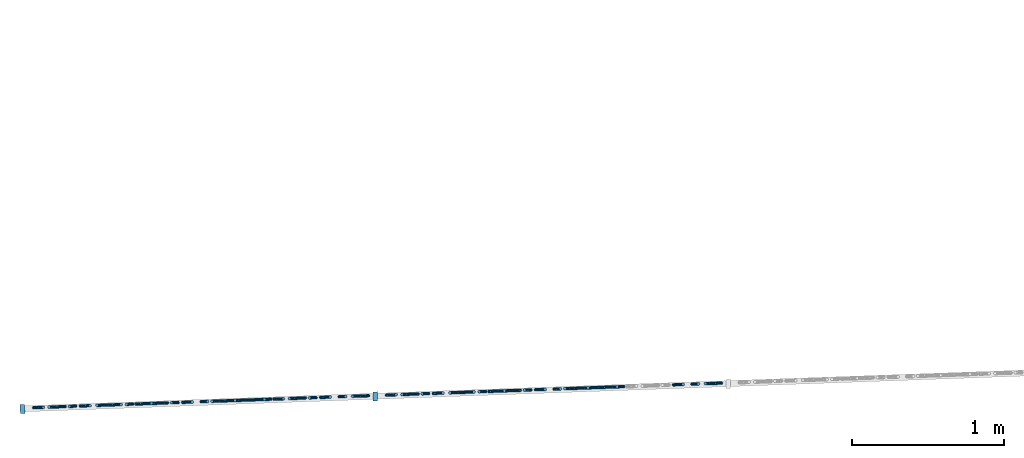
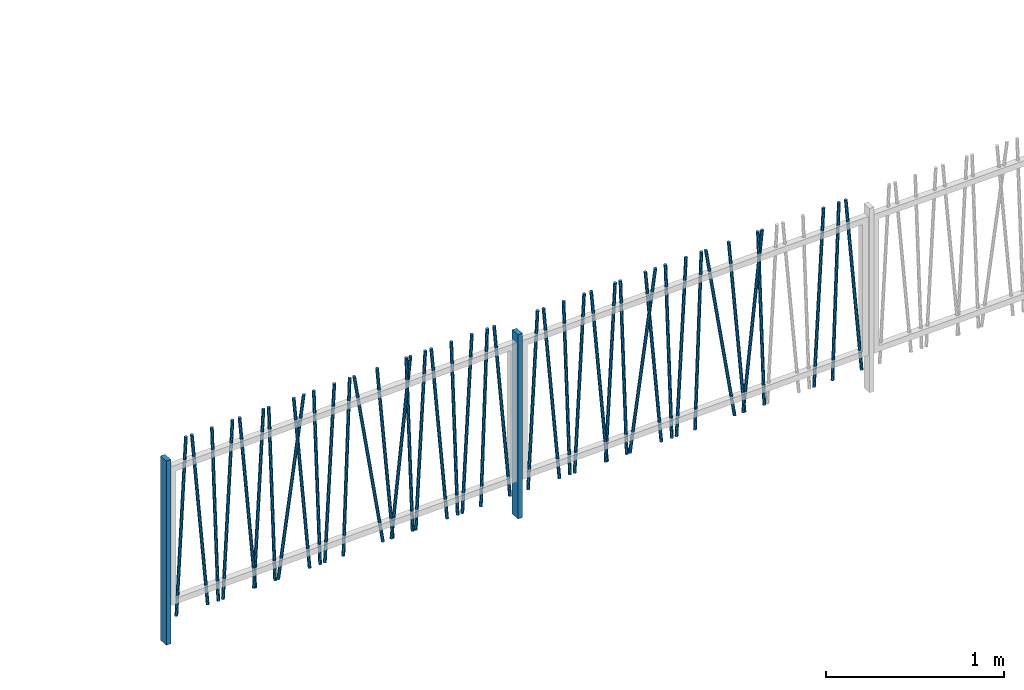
# One storey, part 1 of 171: 43 columns.
"""IFC2X3 building model written with IfcOpenShell, lengths in millimetres."""

from ifc_helpers import new_model, entity, si_unit, converted_unit, derived_unit, money_unit, direction, frame, origin_with_axes, origin_2d_with_axis, place, context, subcontext, project, spatial, rectangle, circle, extrude, clip, halfspace, material, type_object, element, save


model = new_model("IFC2X3")

# Units and contexts
model_context = context("Model", 3, precision=0.01, world=origin_with_axes(), true_north=direction((0.0, 1.0)))
body_context = subcontext(model_context, "Body", "Model", "MODEL_VIEW")
ifc_project = project(units=[si_unit("LENGTHUNIT", "METRE", prefix="MILLI"), si_unit("AREAUNIT", "SQUARE_METRE"), si_unit("VOLUMEUNIT", "CUBIC_METRE"), converted_unit("PLANEANGLEUNIT", "DEGREE", entity("IfcPlaneAngleMeasure", 0.0174532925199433), si_unit("PLANEANGLEUNIT", "RADIAN"), dimensions=[0, 0, 0, 0, 0, 0, 0]), money_unit("USD"), converted_unit("TIMEUNIT", "Year", entity("IfcTimeMeasure", 31557600.0), si_unit("TIMEUNIT", "SECOND"), dimensions=[0, 0, 1, 0, 0, 0, 0]), si_unit("MASSUNIT", "GRAM", prefix="KILO"), si_unit("THERMODYNAMICTEMPERATUREUNIT", "DEGREE_CELSIUS"), si_unit("LUMINOUSINTENSITYUNIT", "LUMEN"), si_unit("ENERGYUNIT", "JOULE", prefix="MEGA"), derived_unit("THERMALCONDUCTANCEUNIT", [(si_unit("POWERUNIT", "WATT"), 1), (si_unit("LENGTHUNIT", "METRE"), -1), (si_unit("THERMODYNAMICTEMPERATUREUNIT", "KELVIN"), -1)]), derived_unit("SPECIFICHEATCAPACITYUNIT", [(si_unit("ENERGYUNIT", "JOULE"), 1), (si_unit("MASSUNIT", "GRAM", prefix="KILO"), -1), (si_unit("THERMODYNAMICTEMPERATUREUNIT", "KELVIN"), -1)]), derived_unit("MASSDENSITYUNIT", [(si_unit("MASSUNIT", "GRAM", prefix="KILO"), 1), (si_unit("VOLUMEUNIT", "CUBIC_METRE"), -1)])], contexts=[model_context])

# Site, building, storey
site_placement = place(None, origin_with_axes())
site = spatial("IfcSite", under=ifc_project, at=site_placement, Name="Site", CompositionType="ELEMENT")
building_placement = place(site_placement, origin_with_axes())
building = spatial("IfcBuilding", under=site, at=building_placement, Name="Bâtiment", CompositionType="ELEMENT")
storey_placement = place(building_placement, frame((0.0, 0.0, 3000.0), z_axis=(0.0, 0.0, 1.0), x_axis=(1.0, 0.0, 0.0)))
storey = spatial("IfcBuildingStorey", under=building, at=storey_placement, Name="rdc", CompositionType="ELEMENT", Elevation=3000.0)

# Columns
ifc_material = material(Name="Empty Fill 2959611567")
column_type_1 = type_object("IfcColumnType", Name="Empty Fill 2959611567 D20", PredefinedType="NOTDEFINED")
column_1_placement = place(storey_placement, frame((2214908.91730495, -668222.0165214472, -1950.0), z_axis=(0.0, 0.0, 1.0), x_axis=(-0.03567989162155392, 0.9993632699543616, 0.0)))
element("IfcColumn", 1, at=column_1_placement, inside=storey, type_object=column_type_1, material=ifc_material, Name="Pilier-019", context=body_context, shape_type="Clipping", body=[
    clip(clip(extrude(circle(Radius=10.0, at=origin_2d_with_axis()), frame((0.0, -0.02437434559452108, -0.6979899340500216), z_axis=(0.0, 0.03489949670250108, 0.9993908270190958), x_axis=(1.0, 0.0, 0.0)), (0.0, 0.0, 1.0), 1202.128283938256), halfspace(frame((0.0, 0.0, 0.0), z_axis=(0.0, 0.0, 1.0), x_axis=(0.0, -1.0, 0.0)), True)), halfspace(frame((0.0, 0.0, 1200.0), z_axis=(0.0, 0.0, -1.0), x_axis=(0.0, 1.0, 0.0)), True)),
])
column_2_placement = place(storey_placement, frame((2215062.445609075, -668216.5351580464, -1950.0), z_axis=(0.0, 0.0, 1.0), x_axis=(0.03567989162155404, -0.9993632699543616, 0.0)))
element("IfcColumn", 2, at=column_2_placement, inside=storey, type_object=column_type_1, material=ifc_material, Name="Pilier-019", context=body_context, shape_type="Clipping", body=[
    clip(clip(extrude(circle(Radius=10.0, at=origin_2d_with_axis()), frame((0.0, -0.02437434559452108, -0.6979899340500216), z_axis=(0.0, -0.03489949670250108, -0.9993908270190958), x_axis=(-1.0, 0.0, 0.0)), (0.0, 0.0, -1.0), 1202.128283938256), halfspace(frame((0.0, 0.0, 0.0), z_axis=(0.0, 0.0, 1.0), x_axis=(0.0, -1.0, 0.0)), True)), halfspace(frame((0.0, 0.0, 1200.0), z_axis=(0.0, 0.0, -1.0), x_axis=(0.0, 1.0, 0.0)), True)),
])
column_3_placement = place(storey_placement, frame((2214940.190533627, -668220.8999851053, -1950.0), z_axis=(0.0, 0.0, 1.0), x_axis=(0.03567989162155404, -0.9993632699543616, 0.0)))
element("IfcColumn", 3, at=column_3_placement, inside=storey, type_object=column_type_1, material=ifc_material, Name="Pilier-019", context=body_context, shape_type="Clipping", body=[
    clip(clip(extrude(circle(Radius=10.0, at=origin_2d_with_axis()), frame((0.0, -0.05485622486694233, -1.046719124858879), z_axis=(0.0, -0.05233595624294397, -0.9986295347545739), x_axis=(-1.0, 0.0, 0.0)), (0.0, 0.0, -1.0), 1203.743126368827), halfspace(frame((0.0, 0.0, 0.0), z_axis=(0.0, 0.0, 1.0), x_axis=(0.0, -1.0, 0.0)), True)), halfspace(frame((0.0, 0.0, 1200.0), z_axis=(0.0, 0.0, -1.0), x_axis=(0.0, 1.0, 0.0)), True)),
])
column_4_placement = place(storey_placement, frame((2214611.367755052, -668232.6398213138, -1950.0), z_axis=(0.0, 0.0, 1.0), x_axis=(-0.03567989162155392, 0.9993632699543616, 0.0)))
element("IfcColumn", 4, at=column_4_placement, inside=storey, type_object=column_type_1, material=ifc_material, Name="Pilier-019", context=body_context, shape_type="Clipping", body=[
    clip(clip(extrude(circle(Radius=10.0, at=origin_2d_with_axis()), frame((0.0, -0.02437434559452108, -0.6979899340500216), z_axis=(0.0, 0.03489949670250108, 0.9993908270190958), x_axis=(1.0, 0.0, 0.0)), (0.0, 0.0, 1.0), 1202.128283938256), halfspace(frame((0.0, 0.0, 0.0), z_axis=(0.0, 0.0, 1.0), x_axis=(0.0, -1.0, 0.0)), True)), halfspace(frame((0.0, 0.0, 1200.0), z_axis=(0.0, 0.0, -1.0), x_axis=(0.0, 1.0, 0.0)), True)),
])
column_5_placement = place(storey_placement, frame((2215323.617414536, -668207.2106391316, -1950.0), z_axis=(0.0, 0.0, 1.0), x_axis=(-0.03567989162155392, 0.9993632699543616, 0.0)))
element("IfcColumn", 5, at=column_5_placement, inside=storey, type_object=column_type_1, material=ifc_material, Name="Pilier-019", context=body_context, shape_type="Clipping", body=[
    clip(clip(extrude(circle(Radius=10.0, at=origin_2d_with_axis()), frame((0.0, -0.4955357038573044, -3.128689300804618), z_axis=(0.0, 0.1564344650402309, 0.9876883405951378), x_axis=(1.0, 0.0, 0.0)), (0.0, 0.0, 1.0), 1221.293528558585), halfspace(frame((0.0, 0.0, 0.0), z_axis=(0.0, 0.0, 1.0), x_axis=(0.0, -1.0, 0.0)), True)), halfspace(frame((0.0, 0.0, 1200.0), z_axis=(0.0, 0.0, -1.0), x_axis=(0.0, 1.0, 0.0)), True)),
])
for number, where, z_axis, x_axis, name in (
    (6, (2215389.823736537, -668204.8468996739, -1950.0), (0.0, 0.0, 1.0), (-0.03567989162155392, 0.9993632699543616, 0.0), "Pilier-019"),
    (7, (2216163.201120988, -668177.2352972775, -1950.0), (0.0, 0.0, 1.0), (-0.03567989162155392, 0.9993632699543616, 0.0), "Pilier-019"),
):
    element("IfcColumn", number, at=place(storey_placement, frame(where, z_axis=z_axis, x_axis=x_axis)), inside=storey, type_object=column_type_1, material=ifc_material, Name=name, context=body_context, shape_type="Clipping", body=[
        clip(clip(extrude(circle(Radius=10.0, at=origin_2d_with_axis()), frame((0.0, -0.152502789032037, -1.743114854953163), z_axis=(0.0, 0.08715574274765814, 0.9961946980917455), x_axis=(1.0, 0.0, 0.0)), (0.0, 0.0, 1.0), 1208.083351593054), halfspace(frame((0.0, 0.0, 0.0), z_axis=(0.0, 0.0, 1.0), x_axis=(0.0, -1.0, 0.0)), True)), halfspace(frame((0.0, 0.0, 1200.0), z_axis=(0.0, 0.0, -1.0), x_axis=(0.0, 1.0, 0.0)), True)),
    ])
column_6_placement = place(storey_placement, frame((2214267.183536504, -668244.9281012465, -1950.0), z_axis=(0.0, 0.0, 1.0), x_axis=(0.03567989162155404, -0.9993632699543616, 0.0)))
element("IfcColumn", 8, at=column_6_placement, inside=storey, type_object=column_type_1, material=ifc_material, Name="Pilier-019", context=body_context, shape_type="Clipping", body=[
    clip(clip(extrude(circle(Radius=10.0, at=origin_2d_with_axis()), frame((0.0, -0.05485622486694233, -1.046719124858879), z_axis=(0.0, -0.05233595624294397, -0.9986295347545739), x_axis=(-1.0, 0.0, 0.0)), (0.0, 0.0, -1.0), 1203.743126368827), halfspace(frame((0.0, 0.0, 0.0), z_axis=(0.0, 0.0, 1.0), x_axis=(0.0, -1.0, 0.0)), True)), halfspace(frame((0.0, 0.0, 1200.0), z_axis=(0.0, 0.0, -1.0), x_axis=(0.0, 1.0, 0.0)), True)),
])
column_7_placement = place(storey_placement, frame((2214481.537509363, -668237.2751018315, -1950.0), z_axis=(0.0, 0.0, 1.0), x_axis=(-0.03567989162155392, 0.9993632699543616, 0.0)))
element("IfcColumn", 9, at=column_7_placement, inside=storey, type_object=column_type_1, material=ifc_material, Name="Pilier-019", context=body_context, shape_type="Clipping", body=[
    clip(clip(extrude(circle(Radius=10.0, at=origin_2d_with_axis()), frame((0.0, -0.152502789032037, -1.743114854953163), z_axis=(0.0, 0.08715574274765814, 0.9961946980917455), x_axis=(1.0, 0.0, 0.0)), (0.0, 0.0, 1.0), 1208.083351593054), halfspace(frame((0.0, 0.0, 0.0), z_axis=(0.0, 0.0, 1.0), x_axis=(0.0, -1.0, 0.0)), True)), halfspace(frame((0.0, 0.0, 1200.0), z_axis=(0.0, 0.0, -1.0), x_axis=(0.0, 1.0, 0.0)), True)),
])
column_8_placement = place(storey_placement, frame((2214235.910307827, -668246.0446375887, -1950.0), z_axis=(0.0, 0.0, 1.0), x_axis=(-0.03567989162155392, 0.9993632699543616, 0.0)))
element("IfcColumn", 10, at=column_8_placement, inside=storey, type_object=column_type_1, material=ifc_material, Name="Pilier-019", context=body_context, shape_type="Clipping", body=[
    clip(clip(extrude(circle(Radius=10.0, at=origin_2d_with_axis()), frame((0.0, -0.02437434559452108, -0.6979899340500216), z_axis=(0.0, 0.03489949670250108, 0.9993908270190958), x_axis=(1.0, 0.0, 0.0)), (0.0, 0.0, 1.0), 1202.128283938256), halfspace(frame((0.0, 0.0, 0.0), z_axis=(0.0, 0.0, 1.0), x_axis=(0.0, -1.0, 0.0)), True)), halfspace(frame((0.0, 0.0, 1200.0), z_axis=(0.0, 0.0, -1.0), x_axis=(0.0, 1.0, 0.0)), True)),
])
column_9_placement = place(storey_placement, frame((2214839.497187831, -668224.4950018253, -1950.0), z_axis=(0.0, 0.0, 1.0), x_axis=(-0.03567989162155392, 0.9993632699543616, 0.0)))
element("IfcColumn", 11, at=column_9_placement, inside=storey, type_object=column_type_1, material=ifc_material, Name="Pilier-019", context=body_context, shape_type="Clipping", body=[
    clip(clip(extrude(circle(Radius=10.0, at=origin_2d_with_axis()), frame((0.0, -0.152502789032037, -1.743114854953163), z_axis=(0.0, 0.08715574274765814, 0.9961946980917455), x_axis=(1.0, 0.0, 0.0)), (0.0, 0.0, 1.0), 1208.083351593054), halfspace(frame((0.0, 0.0, 0.0), z_axis=(0.0, 0.0, 1.0), x_axis=(0.0, -1.0, 0.0)), True)), halfspace(frame((0.0, 0.0, 1200.0), z_axis=(0.0, 0.0, -1.0), x_axis=(0.0, 1.0, 0.0)), True)),
])
column_10_placement = place(storey_placement, frame((2214632.488675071, -668231.8857490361, -1950.0), z_axis=(0.0, 0.0, 1.0), x_axis=(0.03567989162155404, -0.9993632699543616, 0.0)))
element("IfcColumn", 12, at=column_10_placement, inside=storey, type_object=column_type_1, material=ifc_material, Name="Pilier-019", context=body_context, shape_type="Clipping", body=[
    clip(clip(extrude(circle(Radius=10.0, at=origin_2d_with_axis()), frame((0.0, -0.3911900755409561, -2.78346201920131), z_axis=(0.0, -0.1391731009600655, -0.9902680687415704), x_axis=(-1.0, 0.0, 0.0)), (0.0, 0.0, -1.0), 1217.414720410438), halfspace(frame((0.0, 0.0, 0.0), z_axis=(0.0, 0.0, 1.0), x_axis=(0.0, -1.0, 0.0)), True)), halfspace(frame((0.0, 0.0, 1200.0), z_axis=(0.0, 0.0, -1.0), x_axis=(0.0, 1.0, 0.0)), True)),
])
column_11_placement = place(storey_placement, frame((2215848.476760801, -668188.4717829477, -1950.0), z_axis=(0.0, 0.0, 1.0), x_axis=(0.03567989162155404, -0.9993632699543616, 0.0)))
element("IfcColumn", 13, at=column_11_placement, inside=storey, type_object=column_type_1, material=ifc_material, Name="Pilier-019", context=body_context, shape_type="Clipping", body=[
    clip(clip(extrude(circle(Radius=10.0, at=origin_2d_with_axis()), frame((0.0, -0.05485622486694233, -1.046719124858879), z_axis=(0.0, -0.05233595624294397, -0.9986295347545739), x_axis=(-1.0, 0.0, 0.0)), (0.0, 0.0, -1.0), 1203.743126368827), halfspace(frame((0.0, 0.0, 0.0), z_axis=(0.0, 0.0, 1.0), x_axis=(0.0, -1.0, 0.0)), True)), halfspace(frame((0.0, 0.0, 1200.0), z_axis=(0.0, 0.0, -1.0), x_axis=(0.0, 1.0, 0.0)), True)),
])
column_12_placement = place(storey_placement, frame((2215379.925402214, -668205.2002961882, -1950.0), z_axis=(0.0, 0.0, 1.0), x_axis=(0.03567989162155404, -0.9993632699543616, 0.0)))
element("IfcColumn", 14, at=column_12_placement, inside=storey, type_object=column_type_1, material=ifc_material, Name="Pilier-019", context=body_context, shape_type="Clipping", body=[
    clip(clip(extrude(circle(Radius=10.0, at=origin_2d_with_axis()), frame((0.0, -0.2197276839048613, -2.090569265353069), z_axis=(0.0, -0.1045284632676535, -0.9945218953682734), x_axis=(-1.0, 0.0, 0.0)), (0.0, 0.0, -1.0), 1210.814104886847), halfspace(frame((0.0, 0.0, 0.0), z_axis=(0.0, 0.0, 1.0), x_axis=(0.0, -1.0, 0.0)), True)), halfspace(frame((0.0, 0.0, 1200.0), z_axis=(0.0, 0.0, -1.0), x_axis=(0.0, 1.0, 0.0)), True)),
])
column_13_placement = place(storey_placement, frame((2215970.731836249, -668184.1069558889, -1950.0), z_axis=(0.0, 0.0, 1.0), x_axis=(0.03567989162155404, -0.9993632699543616, 0.0)))
element("IfcColumn", 15, at=column_13_placement, inside=storey, type_object=column_type_1, material=ifc_material, Name="Pilier-019", context=body_context, shape_type="Clipping", body=[
    clip(clip(extrude(circle(Radius=10.0, at=origin_2d_with_axis()), frame((0.0, -0.02437434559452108, -0.6979899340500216), z_axis=(0.0, -0.03489949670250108, -0.9993908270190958), x_axis=(-1.0, 0.0, 0.0)), (0.0, 0.0, -1.0), 1202.128283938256), halfspace(frame((0.0, 0.0, 0.0), z_axis=(0.0, 0.0, 1.0), x_axis=(0.0, -1.0, 0.0)), True)), halfspace(frame((0.0, 0.0, 1200.0), z_axis=(0.0, 0.0, -1.0), x_axis=(0.0, 1.0, 0.0)), True)),
])
column_14_placement = place(storey_placement, frame((2215817.203532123, -668189.5883192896, -1950.0), z_axis=(0.0, 0.0, 1.0), x_axis=(-0.03567989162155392, 0.9993632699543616, 0.0)))
element("IfcColumn", 16, at=column_14_placement, inside=storey, type_object=column_type_1, material=ifc_material, Name="Pilier-019", context=body_context, shape_type="Clipping", body=[
    clip(clip(extrude(circle(Radius=10.0, at=origin_2d_with_axis()), frame((0.0, -0.02437434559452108, -0.6979899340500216), z_axis=(0.0, 0.03489949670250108, 0.9993908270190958), x_axis=(1.0, 0.0, 0.0)), (0.0, 0.0, 1.0), 1202.128283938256), halfspace(frame((0.0, 0.0, 0.0), z_axis=(0.0, 0.0, 1.0), x_axis=(0.0, -1.0, 0.0)), True)), halfspace(frame((0.0, 0.0, 1200.0), z_axis=(0.0, 0.0, -1.0), x_axis=(0.0, 1.0, 0.0)), True)),
])
column_15_placement = place(storey_placement, frame((2215747.783415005, -668192.0667996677, -1950.0), z_axis=(0.0, 0.0, 1.0), x_axis=(-0.03567989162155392, 0.9993632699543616, 0.0)))
element("IfcColumn", 17, at=column_15_placement, inside=storey, type_object=column_type_1, material=ifc_material, Name="Pilier-019", context=body_context, shape_type="Clipping", body=[
    clip(clip(extrude(circle(Radius=10.0, at=origin_2d_with_axis()), frame((0.0, -0.152502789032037, -1.743114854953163), z_axis=(0.0, 0.08715574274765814, 0.9961946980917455), x_axis=(1.0, 0.0, 0.0)), (0.0, 0.0, 1.0), 1208.083351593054), halfspace(frame((0.0, 0.0, 0.0), z_axis=(0.0, 0.0, 1.0), x_axis=(0.0, -1.0, 0.0)), True)), halfspace(frame((0.0, 0.0, 1200.0), z_axis=(0.0, 0.0, -1.0), x_axis=(0.0, 1.0, 0.0)), True)),
])
column_16_placement = place(storey_placement, frame((2215519.653982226, -668200.2116191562, -1950.0), z_axis=(0.0, 0.0, 1.0), x_axis=(-0.03567989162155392, 0.9993632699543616, 0.0)))
element("IfcColumn", 18, at=column_16_placement, inside=storey, type_object=column_type_1, material=ifc_material, Name="Pilier-019", context=body_context, shape_type="Clipping", body=[
    clip(clip(extrude(circle(Radius=10.0, at=origin_2d_with_axis()), frame((0.0, -0.02437434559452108, -0.6979899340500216), z_axis=(0.0, 0.03489949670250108, 0.9993908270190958), x_axis=(1.0, 0.0, 0.0)), (0.0, 0.0, 1.0), 1202.128283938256), halfspace(frame((0.0, 0.0, 0.0), z_axis=(0.0, 0.0, 1.0), x_axis=(0.0, -1.0, 0.0)), True)), halfspace(frame((0.0, 0.0, 1200.0), z_axis=(0.0, 0.0, -1.0), x_axis=(0.0, 1.0, 0.0)), True)),
])
for number, where, z_axis, x_axis, name in (
    (19, (2215540.774902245, -668199.4575468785, -1950.0), (0.0, 0.0, 1.0), (0.03567989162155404, -0.9993632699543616, 0.0), "Pilier-019"),
    (20, (2213959.481677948, -668255.9138651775, -1950.0), (0.0, 0.0, 1.0), (0.03567989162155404, -0.9993632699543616, 0.0), "Pilier-019"),
):
    element("IfcColumn", number, at=place(storey_placement, frame(where, z_axis=z_axis, x_axis=x_axis)), inside=storey, type_object=column_type_1, material=ifc_material, Name=name, context=body_context, shape_type="Clipping", body=[
        clip(clip(extrude(circle(Radius=10.0, at=origin_2d_with_axis()), frame((0.0, -0.05485622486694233, -1.046719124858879), z_axis=(0.0, -0.05233595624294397, -0.9986295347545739), x_axis=(-1.0, 0.0, 0.0)), (0.0, 0.0, -1.0), 1203.743126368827), halfspace(frame((0.0, 0.0, 0.0), z_axis=(0.0, 0.0, 1.0), x_axis=(0.0, -1.0, 0.0)), True)), halfspace(frame((0.0, 0.0, 1200.0), z_axis=(0.0, 0.0, -1.0), x_axis=(0.0, 1.0, 0.0)), True)),
    ])
column_17_placement = place(storey_placement, frame((2214166.490190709, -668248.5231179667, -1950.0), z_axis=(0.0, 0.0, 1.0), x_axis=(-0.03567989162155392, 0.9993632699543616, 0.0)))
element("IfcColumn", 21, at=column_17_placement, inside=storey, type_object=column_type_1, material=ifc_material, Name="Pilier-019", context=body_context, shape_type="Clipping", body=[
    clip(clip(extrude(circle(Radius=10.0, at=origin_2d_with_axis()), frame((0.0, -0.152502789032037, -1.743114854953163), z_axis=(0.0, 0.08715574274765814, 0.9961946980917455), x_axis=(1.0, 0.0, 0.0)), (0.0, 0.0, 1.0), 1208.083351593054), halfspace(frame((0.0, 0.0, 0.0), z_axis=(0.0, 0.0, 1.0), x_axis=(0.0, -1.0, 0.0)), True)), halfspace(frame((0.0, 0.0, 1200.0), z_axis=(0.0, 0.0, -1.0), x_axis=(0.0, 1.0, 0.0)), True)),
])
column_18_placement = place(storey_placement, frame((2216794.627095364, -668154.6917327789, -1950.0), z_axis=(0.0, 0.0, 1.0), x_axis=(0.03567989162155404, -0.9993632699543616, 0.0)))
element("IfcColumn", 22, at=column_18_placement, inside=storey, type_object=column_type_1, material=ifc_material, Name="Pilier-019", context=body_context, shape_type="Clipping", body=[
    clip(clip(extrude(circle(Radius=10.0, at=origin_2d_with_axis()), frame((0.0, -0.05485622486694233, -1.046719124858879), z_axis=(0.0, -0.05233595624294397, -0.9986295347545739), x_axis=(-1.0, 0.0, 0.0)), (0.0, 0.0, -1.0), 1203.743126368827), halfspace(frame((0.0, 0.0, 0.0), z_axis=(0.0, 0.0, 1.0), x_axis=(0.0, -1.0, 0.0)), True)), halfspace(frame((0.0, 0.0, 1200.0), z_axis=(0.0, 0.0, -1.0), x_axis=(0.0, 1.0, 0.0)), True)),
])
column_19_placement = place(storey_placement, frame((2217385.433529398, -668133.5983924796, -1950.0), z_axis=(0.0, 0.0, 1.0), x_axis=(0.03567989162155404, -0.9993632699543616, 0.0)))
element("IfcColumn", 23, at=column_19_placement, inside=storey, type_object=column_type_1, material=ifc_material, Name="Pilier-019", context=body_context, shape_type="Clipping", body=[
    clip(clip(extrude(circle(Radius=10.0, at=origin_2d_with_axis()), frame((0.0, -0.02437434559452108, -0.6979899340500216), z_axis=(0.0, -0.03489949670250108, -0.9993908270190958), x_axis=(-1.0, 0.0, 0.0)), (0.0, 0.0, -1.0), 1202.128283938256), halfspace(frame((0.0, 0.0, 0.0), z_axis=(0.0, 0.0, 1.0), x_axis=(0.0, -1.0, 0.0)), True)), halfspace(frame((0.0, 0.0, 1200.0), z_axis=(0.0, 0.0, -1.0), x_axis=(0.0, 1.0, 0.0)), True)),
])
column_20_placement = place(storey_placement, frame((2216934.355675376, -668149.703055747, -1950.0), z_axis=(0.0, 0.0, 1.0), x_axis=(-0.03567989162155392, 0.9993632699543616, 0.0)))
element("IfcColumn", 24, at=column_20_placement, inside=storey, type_object=column_type_1, material=ifc_material, Name="Pilier-019", context=body_context, shape_type="Clipping", body=[
    clip(clip(extrude(circle(Radius=10.0, at=origin_2d_with_axis()), frame((0.0, -0.02437434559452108, -0.6979899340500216), z_axis=(0.0, 0.03489949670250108, 0.9993908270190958), x_axis=(1.0, 0.0, 0.0)), (0.0, 0.0, 1.0), 1202.128283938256), halfspace(frame((0.0, 0.0, 0.0), z_axis=(0.0, 0.0, 1.0), x_axis=(0.0, -1.0, 0.0)), True)), halfspace(frame((0.0, 0.0, 1200.0), z_axis=(0.0, 0.0, -1.0), x_axis=(0.0, 1.0, 0.0)), True)),
])
column_21_placement = place(storey_placement, frame((2217263.178453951, -668137.9632195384, -1950.0), z_axis=(0.0, 0.0, 1.0), x_axis=(0.03567989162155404, -0.9993632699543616, 0.0)))
element("IfcColumn", 25, at=column_21_placement, inside=storey, type_object=column_type_1, material=ifc_material, Name="Pilier-019", context=body_context, shape_type="Clipping", body=[
    clip(clip(extrude(circle(Radius=10.0, at=origin_2d_with_axis()), frame((0.0, -0.05485622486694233, -1.046719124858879), z_axis=(0.0, -0.05233595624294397, -0.9986295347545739), x_axis=(-1.0, 0.0, 0.0)), (0.0, 0.0, -1.0), 1203.743126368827), halfspace(frame((0.0, 0.0, 0.0), z_axis=(0.0, 0.0, 1.0), x_axis=(0.0, -1.0, 0.0)), True)), halfspace(frame((0.0, 0.0, 1200.0), z_axis=(0.0, 0.0, -1.0), x_axis=(0.0, 1.0, 0.0)), True)),
])
column_22_placement = place(storey_placement, frame((2217646.60533486, -668124.2738735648, -1950.0), z_axis=(0.0, 0.0, 1.0), x_axis=(-0.03567989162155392, 0.9993632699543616, 0.0)))
element("IfcColumn", 26, at=column_22_placement, inside=storey, type_object=column_type_1, material=ifc_material, Name="Pilier-019", context=body_context, shape_type="Clipping", body=[
    clip(clip(extrude(circle(Radius=10.0, at=origin_2d_with_axis()), frame((0.0, -0.4955357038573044, -3.128689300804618), z_axis=(0.0, 0.1564344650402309, 0.9876883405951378), x_axis=(1.0, 0.0, 0.0)), (0.0, 0.0, 1.0), 1221.293528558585), halfspace(frame((0.0, 0.0, 0.0), z_axis=(0.0, 0.0, 1.0), x_axis=(0.0, -1.0, 0.0)), True)), halfspace(frame((0.0, 0.0, 1200.0), z_axis=(0.0, 0.0, -1.0), x_axis=(0.0, 1.0, 0.0)), True)),
])
column_23_placement = place(storey_placement, frame((2217712.811656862, -668121.9101341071, -1950.0), z_axis=(0.0, 0.0, 1.0), x_axis=(-0.03567989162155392, 0.9993632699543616, 0.0)))
element("IfcColumn", 27, at=column_23_placement, inside=storey, type_object=column_type_1, material=ifc_material, Name="Pilier-019", context=body_context, shape_type="Clipping", body=[
    clip(clip(extrude(circle(Radius=10.0, at=origin_2d_with_axis()), frame((0.0, -0.152502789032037, -1.743114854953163), z_axis=(0.0, 0.08715574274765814, 0.9961946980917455), x_axis=(1.0, 0.0, 0.0)), (0.0, 0.0, 1.0), 1208.083351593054), halfspace(frame((0.0, 0.0, 0.0), z_axis=(0.0, 0.0, 1.0), x_axis=(0.0, -1.0, 0.0)), True)), halfspace(frame((0.0, 0.0, 1200.0), z_axis=(0.0, 0.0, -1.0), x_axis=(0.0, 1.0, 0.0)), True)),
])
column_24_placement = place(storey_placement, frame((2217231.905225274, -668139.0797558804, -1950.0), z_axis=(0.0, 0.0, 1.0), x_axis=(-0.03567989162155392, 0.9993632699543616, 0.0)))
element("IfcColumn", 28, at=column_24_placement, inside=storey, type_object=column_type_1, material=ifc_material, Name="Pilier-019", context=body_context, shape_type="Clipping", body=[
    clip(clip(extrude(circle(Radius=10.0, at=origin_2d_with_axis()), frame((0.0, -0.02437434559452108, -0.6979899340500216), z_axis=(0.0, 0.03489949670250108, 0.9993908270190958), x_axis=(1.0, 0.0, 0.0)), (0.0, 0.0, 1.0), 1202.128283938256), halfspace(frame((0.0, 0.0, 0.0), z_axis=(0.0, 0.0, 1.0), x_axis=(0.0, -1.0, 0.0)), True)), halfspace(frame((0.0, 0.0, 1200.0), z_axis=(0.0, 0.0, -1.0), x_axis=(0.0, 1.0, 0.0)), True)),
])
column_25_placement = place(storey_placement, frame((2216590.171456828, -668161.9913356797, -1950.0), z_axis=(0.0, 0.0, 1.0), x_axis=(0.03567989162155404, -0.9993632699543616, 0.0)))
element("IfcColumn", 29, at=column_25_placement, inside=storey, type_object=column_type_1, material=ifc_material, Name="Pilier-019", context=body_context, shape_type="Clipping", body=[
    clip(clip(extrude(circle(Radius=10.0, at=origin_2d_with_axis()), frame((0.0, -0.05485622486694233, -1.046719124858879), z_axis=(0.0, -0.05233595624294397, -0.9986295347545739), x_axis=(-1.0, 0.0, 0.0)), (0.0, 0.0, -1.0), 1203.743126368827), halfspace(frame((0.0, 0.0, 0.0), z_axis=(0.0, 0.0, 1.0), x_axis=(0.0, -1.0, 0.0)), True)), halfspace(frame((0.0, 0.0, 1200.0), z_axis=(0.0, 0.0, -1.0), x_axis=(0.0, 1.0, 0.0)), True)),
])
column_26_placement = place(storey_placement, frame((2218486.189041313, -668094.2985317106, -1950.0), z_axis=(0.0, 0.0, 1.0), x_axis=(-0.03567989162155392, 0.9993632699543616, 0.0)))
element("IfcColumn", 30, at=column_26_placement, inside=storey, type_object=column_type_1, material=ifc_material, Name="Pilier-019", context=body_context, shape_type="Clipping", body=[
    clip(clip(extrude(circle(Radius=10.0, at=origin_2d_with_axis()), frame((0.0, -0.152502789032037, -1.743114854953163), z_axis=(0.0, 0.08715574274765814, 0.9961946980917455), x_axis=(1.0, 0.0, 0.0)), (0.0, 0.0, 1.0), 1208.083351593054), halfspace(frame((0.0, 0.0, 0.0), z_axis=(0.0, 0.0, 1.0), x_axis=(0.0, -1.0, 0.0)), True)), halfspace(frame((0.0, 0.0, 1200.0), z_axis=(0.0, 0.0, -1.0), x_axis=(0.0, 1.0, 0.0)), True)),
])
column_27_placement = place(storey_placement, frame((2216558.898228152, -668163.1078720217, -1950.0), z_axis=(0.0, 0.0, 1.0), x_axis=(-0.03567989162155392, 0.9993632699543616, 0.0)))
element("IfcColumn", 31, at=column_27_placement, inside=storey, type_object=column_type_1, material=ifc_material, Name="Pilier-019", context=body_context, shape_type="Clipping", body=[
    clip(clip(extrude(circle(Radius=10.0, at=origin_2d_with_axis()), frame((0.0, -0.02437434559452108, -0.6979899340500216), z_axis=(0.0, 0.03489949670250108, 0.9993908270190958), x_axis=(1.0, 0.0, 0.0)), (0.0, 0.0, 1.0), 1202.128283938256), halfspace(frame((0.0, 0.0, 0.0), z_axis=(0.0, 0.0, 1.0), x_axis=(0.0, -1.0, 0.0)), True)), halfspace(frame((0.0, 0.0, 1200.0), z_axis=(0.0, 0.0, -1.0), x_axis=(0.0, 1.0, 0.0)), True)),
])
for number, where, z_axis, x_axis, name in (
    (32, (2216804.525429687, -668154.3383362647, -1950.0), (0.0, 0.0, 1.0), (-0.03567989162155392, 0.9993632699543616, 0.0), "Pilier-019"),
    (33, (2217162.485108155, -668141.5582362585, -1950.0), (0.0, 0.0, 1.0), (-0.03567989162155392, 0.9993632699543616, 0.0), "Pilier-019"),
):
    element("IfcColumn", number, at=place(storey_placement, frame(where, z_axis=z_axis, x_axis=x_axis)), inside=storey, type_object=column_type_1, material=ifc_material, Name=name, context=body_context, shape_type="Clipping", body=[
        clip(clip(extrude(circle(Radius=10.0, at=origin_2d_with_axis()), frame((0.0, -0.152502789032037, -1.743114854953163), z_axis=(0.0, 0.08715574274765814, 0.9961946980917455), x_axis=(1.0, 0.0, 0.0)), (0.0, 0.0, 1.0), 1208.083351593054), halfspace(frame((0.0, 0.0, 0.0), z_axis=(0.0, 0.0, 1.0), x_axis=(0.0, -1.0, 0.0)), True)), halfspace(frame((0.0, 0.0, 1200.0), z_axis=(0.0, 0.0, -1.0), x_axis=(0.0, 1.0, 0.0)), True)),
    ])
column_28_placement = place(storey_placement, frame((2216955.476595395, -668148.9489834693, -1950.0), z_axis=(0.0, 0.0, 1.0), x_axis=(0.03567989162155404, -0.9993632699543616, 0.0)))
element("IfcColumn", 34, at=column_28_placement, inside=storey, type_object=column_type_1, material=ifc_material, Name="Pilier-019", context=body_context, shape_type="Clipping", body=[
    clip(clip(extrude(circle(Radius=10.0, at=origin_2d_with_axis()), frame((0.0, -0.3911900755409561, -2.78346201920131), z_axis=(0.0, -0.1391731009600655, -0.9902680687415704), x_axis=(-1.0, 0.0, 0.0)), (0.0, 0.0, -1.0), 1217.414720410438), halfspace(frame((0.0, 0.0, 0.0), z_axis=(0.0, 0.0, 1.0), x_axis=(0.0, -1.0, 0.0)), True)), halfspace(frame((0.0, 0.0, 1200.0), z_axis=(0.0, 0.0, -1.0), x_axis=(0.0, 1.0, 0.0)), True)),
])
column_29_placement = place(storey_placement, frame((2217702.913322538, -668122.2635306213, -1950.0), z_axis=(0.0, 0.0, 1.0), x_axis=(0.03567989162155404, -0.9993632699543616, 0.0)))
element("IfcColumn", 35, at=column_29_placement, inside=storey, type_object=column_type_1, material=ifc_material, Name="Pilier-019", context=body_context, shape_type="Clipping", body=[
    clip(clip(extrude(circle(Radius=10.0, at=origin_2d_with_axis()), frame((0.0, -0.2197276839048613, -2.090569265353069), z_axis=(0.0, -0.1045284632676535, -0.9945218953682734), x_axis=(-1.0, 0.0, 0.0)), (0.0, 0.0, -1.0), 1210.814104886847), halfspace(frame((0.0, 0.0, 0.0), z_axis=(0.0, 0.0, 1.0), x_axis=(0.0, -1.0, 0.0)), True)), halfspace(frame((0.0, 0.0, 1200.0), z_axis=(0.0, 0.0, -1.0), x_axis=(0.0, 1.0, 0.0)), True)),
])
column_30_placement = place(storey_placement, frame((2218171.464681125, -668105.5350173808, -1950.0), z_axis=(0.0, 0.0, 1.0), x_axis=(0.03567989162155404, -0.9993632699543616, 0.0)))
element("IfcColumn", 36, at=column_30_placement, inside=storey, type_object=column_type_1, material=ifc_material, Name="Pilier-019", context=body_context, shape_type="Clipping", body=[
    clip(clip(extrude(circle(Radius=10.0, at=origin_2d_with_axis()), frame((0.0, -0.05485622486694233, -1.046719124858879), z_axis=(0.0, -0.05233595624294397, -0.9986295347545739), x_axis=(-1.0, 0.0, 0.0)), (0.0, 0.0, -1.0), 1203.743126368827), halfspace(frame((0.0, 0.0, 0.0), z_axis=(0.0, 0.0, 1.0), x_axis=(0.0, -1.0, 0.0)), True)), halfspace(frame((0.0, 0.0, 1200.0), z_axis=(0.0, 0.0, -1.0), x_axis=(0.0, 1.0, 0.0)), True)),
])
column_31_placement = place(storey_placement, frame((2218293.719756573, -668101.170190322, -1950.0), z_axis=(0.0, 0.0, 1.0), x_axis=(0.03567989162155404, -0.9993632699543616, 0.0)))
element("IfcColumn", 37, at=column_31_placement, inside=storey, type_object=column_type_1, material=ifc_material, Name="Pilier-019", context=body_context, shape_type="Clipping", body=[
    clip(clip(extrude(circle(Radius=10.0, at=origin_2d_with_axis()), frame((0.0, -0.02437434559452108, -0.6979899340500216), z_axis=(0.0, -0.03489949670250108, -0.9993908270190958), x_axis=(-1.0, 0.0, 0.0)), (0.0, 0.0, -1.0), 1202.128283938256), halfspace(frame((0.0, 0.0, 0.0), z_axis=(0.0, 0.0, 1.0), x_axis=(0.0, -1.0, 0.0)), True)), halfspace(frame((0.0, 0.0, 1200.0), z_axis=(0.0, 0.0, -1.0), x_axis=(0.0, 1.0, 0.0)), True)),
])
column_32_placement = place(storey_placement, frame((2217842.641902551, -668117.2748535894, -1950.0), z_axis=(0.0, 0.0, 1.0), x_axis=(-0.03567989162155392, 0.9993632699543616, 0.0)))
element("IfcColumn", 38, at=column_32_placement, inside=storey, type_object=column_type_1, material=ifc_material, Name="Pilier-019", context=body_context, shape_type="Clipping", body=[
    clip(clip(extrude(circle(Radius=10.0, at=origin_2d_with_axis()), frame((0.0, -0.02437434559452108, -0.6979899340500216), z_axis=(0.0, 0.03489949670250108, 0.9993908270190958), x_axis=(1.0, 0.0, 0.0)), (0.0, 0.0, 1.0), 1202.128283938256), halfspace(frame((0.0, 0.0, 0.0), z_axis=(0.0, 0.0, 1.0), x_axis=(0.0, -1.0, 0.0)), True)), halfspace(frame((0.0, 0.0, 1200.0), z_axis=(0.0, 0.0, -1.0), x_axis=(0.0, 1.0, 0.0)), True)),
])
column_33_placement = place(storey_placement, frame((2216489.478111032, -668165.5863523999, -1950.0), z_axis=(0.0, 0.0, 1.0), x_axis=(-0.03567989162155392, 0.9993632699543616, 0.0)))
element("IfcColumn", 39, at=column_33_placement, inside=storey, type_object=column_type_1, material=ifc_material, Name="Pilier-019", context=body_context, shape_type="Clipping", body=[
    clip(clip(extrude(circle(Radius=10.0, at=origin_2d_with_axis()), frame((0.0, -0.152502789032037, -1.743114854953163), z_axis=(0.0, 0.08715574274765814, 0.9961946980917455), x_axis=(1.0, 0.0, 0.0)), (0.0, 0.0, 1.0), 1208.083351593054), halfspace(frame((0.0, 0.0, 0.0), z_axis=(0.0, 0.0, 1.0), x_axis=(0.0, -1.0, 0.0)), True)), halfspace(frame((0.0, 0.0, 1200.0), z_axis=(0.0, 0.0, -1.0), x_axis=(0.0, 1.0, 0.0)), True)),
])
for number, where, z_axis, x_axis, name in (
    (40, (2216282.469598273, -668172.9770996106, -1950.0), (0.0, 0.0, 1.0), (0.03567989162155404, -0.9993632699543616, 0.0), "Pilier-019"),
    (41, (2214471.639175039, -668237.6284983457, -1950.0), (0.0, 0.0, 1.0), (0.03567989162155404, -0.9993632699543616, 0.0), "Pilier-019"),
):
    element("IfcColumn", number, at=place(storey_placement, frame(where, z_axis=z_axis, x_axis=x_axis)), inside=storey, type_object=column_type_1, material=ifc_material, Name=name, context=body_context, shape_type="Clipping", body=[
        clip(clip(extrude(circle(Radius=10.0, at=origin_2d_with_axis()), frame((0.0, -0.05485622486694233, -1.046719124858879), z_axis=(0.0, -0.05233595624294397, -0.9986295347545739), x_axis=(-1.0, 0.0, 0.0)), (0.0, 0.0, -1.0), 1203.743126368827), halfspace(frame((0.0, 0.0, 0.0), z_axis=(0.0, 0.0, 1.0), x_axis=(0.0, -1.0, 0.0)), True)), halfspace(frame((0.0, 0.0, 1200.0), z_axis=(0.0, 0.0, -1.0), x_axis=(0.0, 1.0, 0.0)), True)),
    ])
column_type_2 = type_object("IfcColumnType", Name="Empty Fill 2959611567 30 x 60", PredefinedType="NOTDEFINED")
for number, where, z_axis, x_axis, name in (
    (42, (2216208.240433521, -668181.6572783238, -2100.0), (0.0, 0.0, 1.0), (0.9993632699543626, 0.03567989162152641, 0.0), "Pilier-019"),
    (43, (2213885.252513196, -668264.5940438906, -2100.0), (0.0, 0.0, 1.0), (0.9993632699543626, 0.03567989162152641, 0.0), "Pilier-019"),
):
    element("IfcColumn", number, at=place(storey_placement, frame(where, z_axis=z_axis, x_axis=x_axis)), inside=storey, type_object=column_type_2, material=ifc_material, Name=name, context=body_context, shape_type="SweptSolid", body=[
        extrude(rectangle(XDim=30.0, YDim=60.0, at=origin_2d_with_axis()), origin_with_axes(), (0.0, 0.0, 1.0), 1260.0),
    ])

save(model, "model.ifc")
